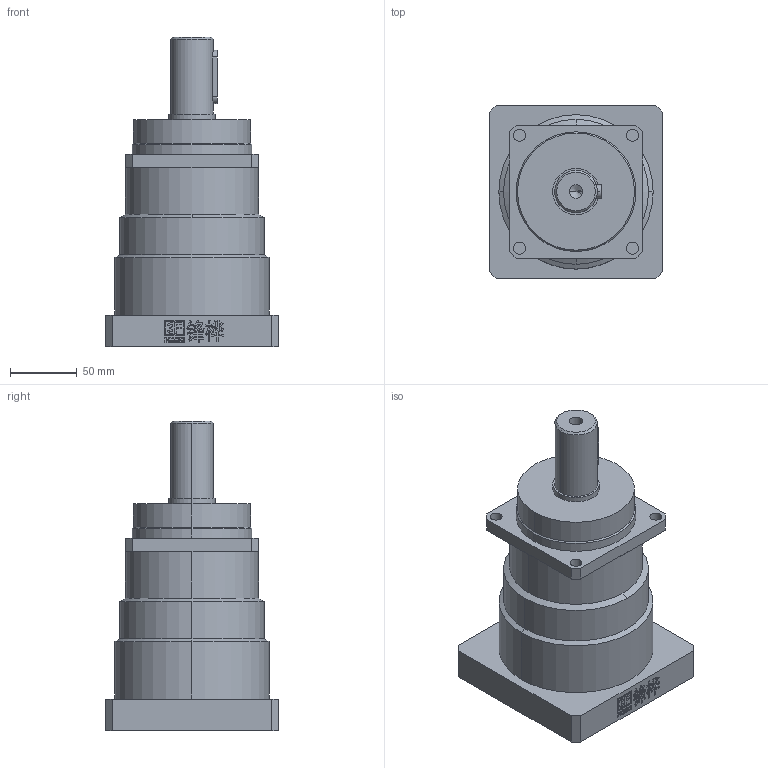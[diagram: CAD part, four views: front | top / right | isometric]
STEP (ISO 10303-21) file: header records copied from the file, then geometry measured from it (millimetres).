
FILE_DESCRIPTION (( 'STEP AP214' ), '1' );
FILE_NAME ('VRS100-L1.STEP', '2019-08-31T05:46:43', ( '微软用户' ), ( '微软中国' ), 'SwSTEP 2.0', 'SolidWorks 2014', '' );
FILE_SCHEMA (( 'AUTOMOTIVE_DESIGN' ));
Length unit declared in the file: millimetre
Products named in the file (2): VRS100-L1
Bounding box: 130 x 130 x 233 mm (x, y, z)
Volume: 1545988.5 mm3; surface area: 118201.9 mm2
Topology: 1 solids, 1 shells, 717 faces, 2031 edges, 1340 vertices
Faces by surface type: plane 600, bspline 60, cylinder 39, cone 18
Entity records: 30022 total; most frequent: CARTESIAN_POINT 4928, ORIENTED_EDGE 4042, DIRECTION 3298, EDGE_CURVE 2021, VECTOR 1814, LINE 1814, VERTEX_POINT 1340, EDGE_LOOP 751
